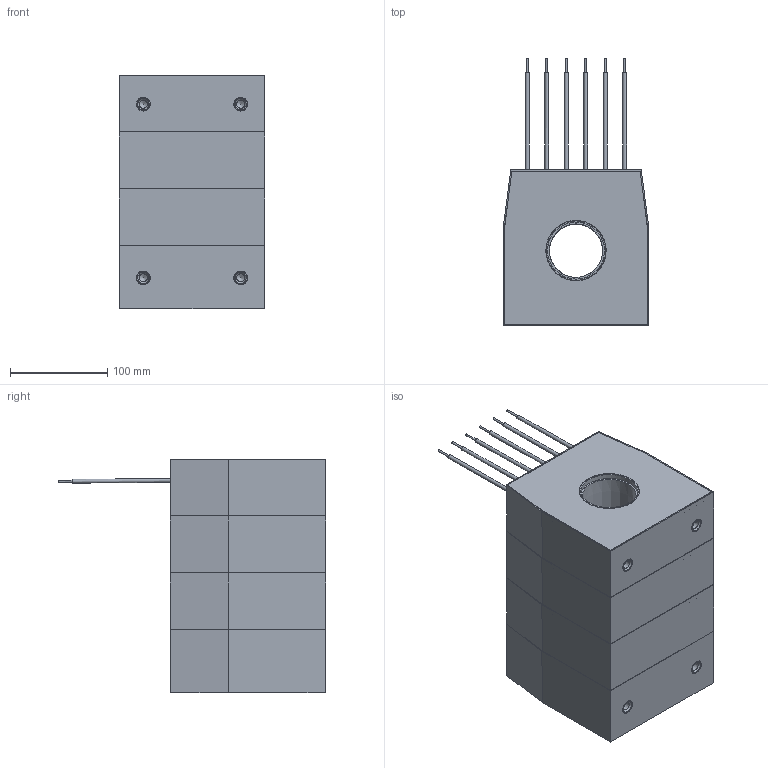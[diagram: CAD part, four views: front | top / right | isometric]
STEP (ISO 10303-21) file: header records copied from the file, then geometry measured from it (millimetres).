
FILE_DESCRIPTION(('STEP AP203'), '1');
FILE_NAME('ÒØÏ-ÍÒÇ-0,66-74À (55 ìì, 4-é ãàáàðèò)', '2025-08-27T09:36:08', ('UNSPECIFIED'), ('UNSPECIFIED'), 'ASCON STEP Converter 1.3', 'ASCON Math Kernel', '');
FILE_SCHEMA(('CONFIG_CONTROL_DESIGN'));
Length unit declared in the file: millimetre
Assembly tree (19 placements, depth 2):
  (unnamed)
    (unnamed)
    (unnamed)  x2
    (unnamed)
    (unnamed)  x4
    (unnamed)  x4
    (unnamed)
    (unnamed)  x6
Bounding box: 150 x 274.82 x 240.5 mm (x, y, z)
Volume: 788983.7 mm3; surface area: 525772.4 mm2
Topology: 19 solids, 19 shells, 307 faces, 687 edges, 447 vertices
Faces by surface type: plane 196, cylinder 75, cone 28, torus 8
Full cylindrical faces by diameter (mm): 2 x6, 3.9 x6, 4 x5, 6 x12, 8.376 x4, 14 x8, 17 x4, 55 x1, 55.05 x1, 58.599 x8, 58.6 x1, 61 x1, 65.05 x1, 68.6 x1
Entity records: 7250 total; most frequent: CARTESIAN_POINT 921, DIRECTION 872, ORIENTED_EDGE 790, EDGE_CURVE 395, LINE 300, VECTOR 300, AXIS2_PLACEMENT_3D 286, VERTEX_POINT 286
